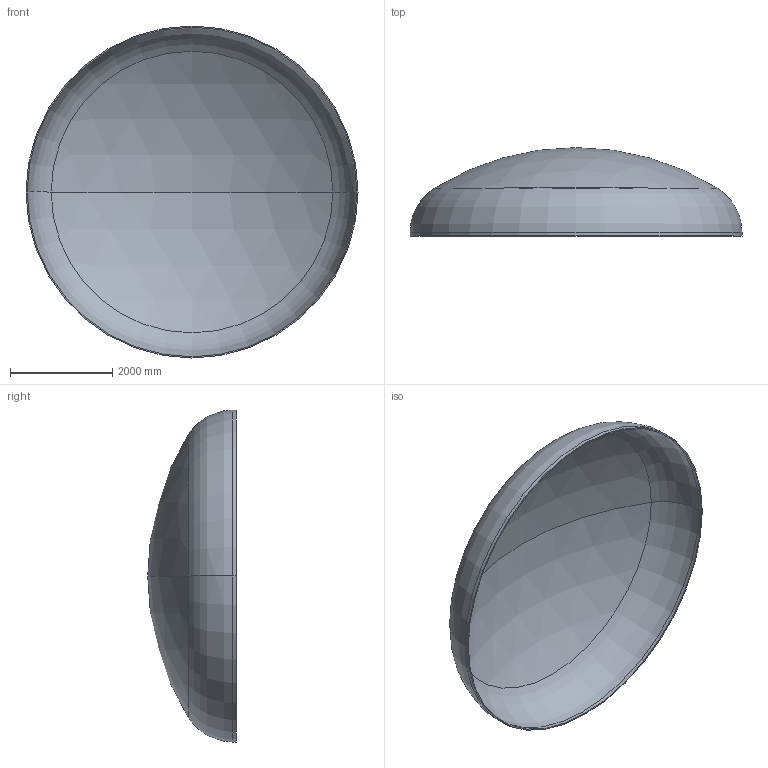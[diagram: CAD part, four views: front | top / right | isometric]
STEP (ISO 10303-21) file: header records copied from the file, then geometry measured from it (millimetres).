
FILE_DESCRIPTION (( 'STEP AP203' ), '1' );
FILE_NAME ('DIN 28013 Korbbogenform_-_Boden DIN 28013 - 6500 x 70 - I - s=23.step', '2016-07-04T10:40:36', ( '' ), ( '' ), 'SwSTEP 2.0', 'SolidWorks 2013', '' );
FILE_SCHEMA (( 'CONFIG_CONTROL_DESIGN' ));
Length unit declared in the file: millimetre
Products named in the file (1): DIN 28013 Korbbogenform_-_Boden DIN 28013 - 6500 x 70 - I - s=23
Bounding box: 6500 x 1732.04 x 6500 mm (x, y, z)
Volume: 1084721319.9 mm3; surface area: 94792669 mm2
Topology: 1 solids, 1 shells, 13 faces, 24 edges, 14 vertices
Faces by surface type: torus 4, cylinder 4, sphere 4, plane 1
Entity records: 407 total; most frequent: DIRECTION 72, CARTESIAN_POINT 52, ORIENTED_EDGE 48, AXIS2_PLACEMENT_3D 34, EDGE_CURVE 24, CIRCLE 20, EDGE_LOOP 14, VERTEX_POINT 14
